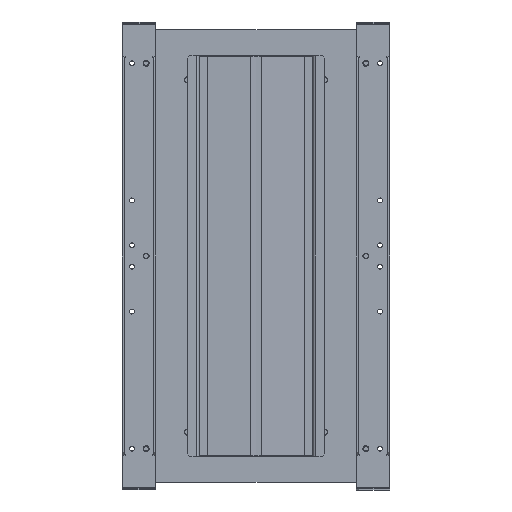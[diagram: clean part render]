
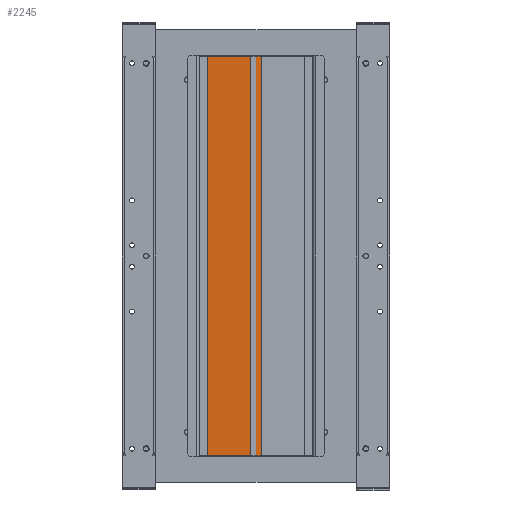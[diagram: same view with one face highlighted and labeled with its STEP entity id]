
A CAD part, front view. The second image highlights one B-rep face of the part: STEP entity #2245.
In plain terms, the highlighted planar face has unit normal (-0.033, -1, 0) as drawn and (-0.999, 0.032, 0) by its records, which use the part's own axes.
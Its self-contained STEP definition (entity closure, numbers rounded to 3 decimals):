
#174 = FACE_OUTER_BOUND ( 'NONE', #2446, .T. ) ;
#840 = ORIENTED_EDGE ( 'NONE', *, *, #7165, .T. ) ;
#1326 = VERTEX_POINT ( 'NONE', #4498 ) ;
#1413 = VERTEX_POINT ( 'NONE', #5227 ) ;
#1563 = VERTEX_POINT ( 'NONE', #7573 ) ;
#1648 = DIRECTION ( 'NONE',  ( 0.032, 0.999, 0. ) ) ;
#1658 = DIRECTION ( 'NONE',  ( 0.999, -0.032, 0. ) ) ;
#1697 = CARTESIAN_POINT ( 'NONE',  ( -0.25, -50.9, 338. ) ) ;
#1713 = PLANE ( 'NONE',  #5150 ) ;
#1791 = CARTESIAN_POINT ( 'NONE',  ( 1.25, -4.7, 338. ) ) ;
#1947 = DIRECTION ( 'NONE',  ( -0.032, -0.999, 0. ) ) ;
#1987 = ORIENTED_EDGE ( 'NONE', *, *, #5698, .T. ) ;
#1996 = ORIENTED_EDGE ( 'NONE', *, *, #5986, .F. ) ;
#2106 = LINE ( 'NONE', #2296, #7435 ) ;
#2245 = ADVANCED_FACE ( 'NONE', ( #174 ), #1713, .F. ) ;
#2296 = CARTESIAN_POINT ( 'NONE',  ( 1.25, -4.7, 338. ) ) ;
#2445 = LINE ( 'NONE', #6655, #6100 ) ;
#2446 = EDGE_LOOP ( 'NONE', ( #1987, #5420, #1996, #840 ) ) ;
#3034 = VECTOR ( 'NONE', #6797, 1000. ) ;
#3668 = CARTESIAN_POINT ( 'NONE',  ( -0.25, -50.9, 338. ) ) ;
#4209 = VECTOR ( 'NONE', #1947, 1000. ) ;
#4297 = VERTEX_POINT ( 'NONE', #3668 ) ;
#4498 = CARTESIAN_POINT ( 'NONE',  ( 1.25, -4.7, 0. ) ) ;
#4512 = DIRECTION ( 'NONE',  ( 0., 0., -1. ) ) ;
#4890 = CARTESIAN_POINT ( 'NONE',  ( 1.25, -4.7, 0. ) ) ;
#5000 = LINE ( 'NONE', #1697, #3034 ) ;
#5150 = AXIS2_PLACEMENT_3D ( 'NONE', #1791, #1658, #1648 ) ;
#5227 = CARTESIAN_POINT ( 'NONE',  ( -0.25, -50.9, 0. ) ) ;
#5420 = ORIENTED_EDGE ( 'NONE', *, *, #6769, .F. ) ;
#5698 = EDGE_CURVE ( 'NONE', #1326, #1413, #6116, .T. ) ;
#5986 = EDGE_CURVE ( 'NONE', #1563, #4297, #2106, .T. ) ;
#6100 = VECTOR ( 'NONE', #4512, 1000. ) ;
#6116 = LINE ( 'NONE', #4890, #4209 ) ;
#6638 = DIRECTION ( 'NONE',  ( -0.032, -0.999, 0. ) ) ;
#6655 = CARTESIAN_POINT ( 'NONE',  ( 1.25, -4.7, 338. ) ) ;
#6769 = EDGE_CURVE ( 'NONE', #4297, #1413, #5000, .T. ) ;
#6797 = DIRECTION ( 'NONE',  ( 0., 0., -1. ) ) ;
#7165 = EDGE_CURVE ( 'NONE', #1563, #1326, #2445, .T. ) ;
#7435 = VECTOR ( 'NONE', #6638, 1000. ) ;
#7573 = CARTESIAN_POINT ( 'NONE',  ( 1.25, -4.7, 338. ) ) ;
